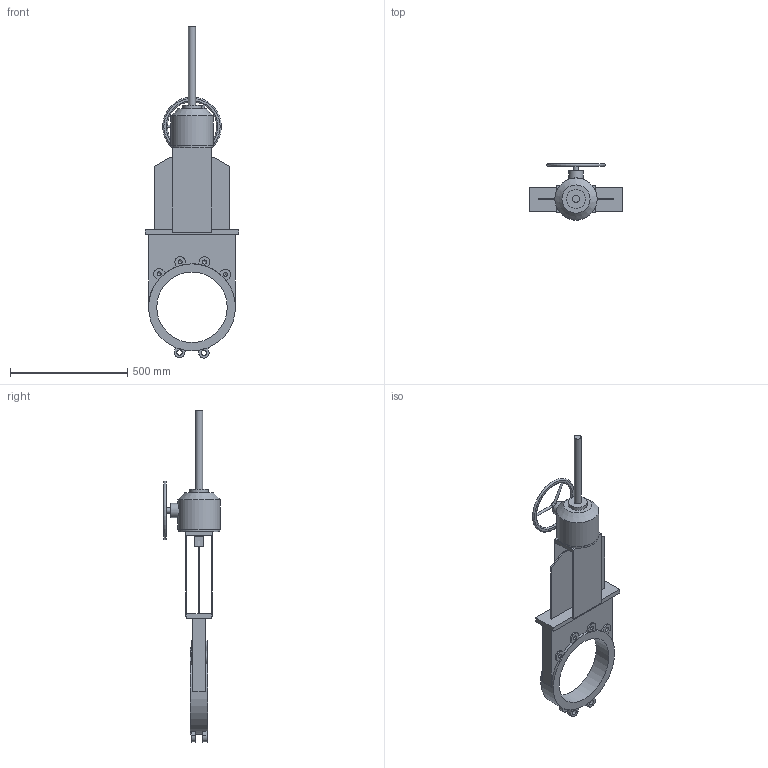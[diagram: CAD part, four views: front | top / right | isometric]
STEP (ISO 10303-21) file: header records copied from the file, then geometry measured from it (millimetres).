
FILE_DESCRIPTION(('STEP AP203'), '1');
FILE_NAME('Çàäâèæêà øèáåðíàÿ K21GV DN300 ðåäóêòîð+âûäâèæíîé øïèíäåëü', '', ('UNSPECIFIED'), ('UNSPECIFIED'), 'ASCON STEP Converter 1.6', 'ASCON Math Kernel', '');
FILE_SCHEMA(('CONFIG_CONTROL_DESIGN'));
Length unit declared in the file: millimetre
Bounding box: 400 x 240 x 1414 mm (x, y, z)
Volume: 13055686 mm3; surface area: 1143087.9 mm2
Topology: 1 solids, 1 shells, 141 faces, 369 edges, 235 vertices
Faces by surface type: plane 92, cylinder 36, cone 9, torus 4
Full cylindrical faces by diameter (mm): 10 x3, 17.294 x8, 23 x4, 24 x1, 30 x2, 60 x1, 80 x1, 175 x1, 180 x1, 300 x1, 370 x1
Entity records: 6519 total; most frequent: CARTESIAN_POINT 1972, DIRECTION 710, ORIENTED_EDGE 652, EDGE_CURVE 326, AXIS2_PLACEMENT_3D 255, VERTEX_POINT 227, EDGE_LOOP 201, LINE 200
